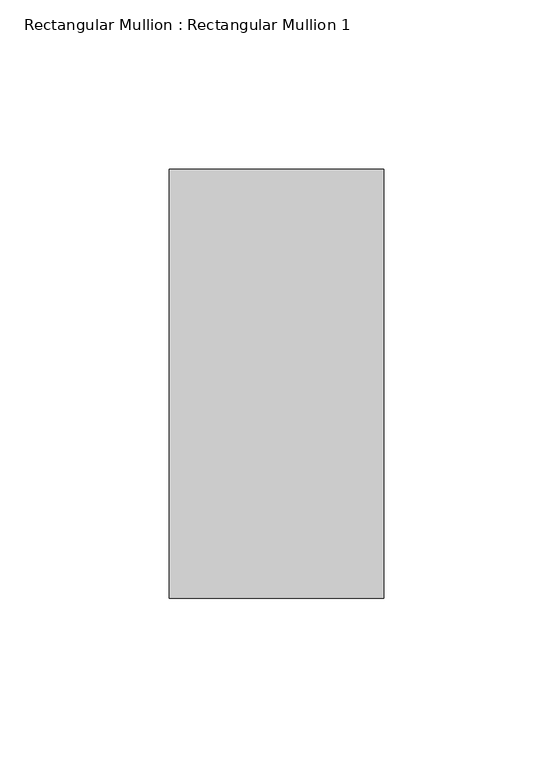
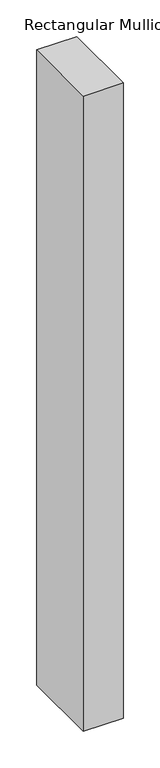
"""IFC4 building model written with IfcOpenShell, lengths in millimetres: member geometry, Rectangular Mullion : Rectangular Mullion 1."""

from ifc_helpers import new_model, si_unit, frame, origin, place, context, project, spatial, polyline, outline, extrude, source, transform, mapped, element, save


def rectangular_mullion_rectangular_mullion_1_f2e3b31c(model_context):
    return source(origin(), model_context, "Body", "SweptSolid", [
        extrude(outline(polyline([(31.75, 63.5), (31.75, -63.5), (-31.75, -63.5), (-31.75, 63.5), (31.75, 63.5)])), frame((0.0, 0.0, -1059.0892857), z_axis=(0.0, 0.0, 1.0), x_axis=(1.0, 0.0, 0.0)), (0.0, 0.0, 1.0), 1059.0892857),
    ])


if __name__ == "__main__":
    model = new_model("IFC4")
    model_context = context("Model", 3, world=origin())
    ifc_project = project(units=[si_unit("LENGTHUNIT", "METRE", prefix="MILLI")], contexts=[model_context])
    site = spatial("IfcSite", under=ifc_project)
    building = spatial("IfcBuilding", under=site)
    placement = place(None, origin())
    rectangular_mullion_rectangular_mullion_1_shape = rectangular_mullion_rectangular_mullion_1_f2e3b31c(model_context)
    element("IfcMember", 1, ObjectType="Rectangular Mullion : Rectangular Mullion 1", at=placement, inside=building, context=model_context, shape_type="MappedRepresentation", body=[
        mapped(rectangular_mullion_rectangular_mullion_1_shape, transform((0.0, 0.0, 0.0), x_axis=(1.0, 0.0, 0.0), y_axis=(0.0, 1.0, 0.0), z_axis=(0.0, 0.0, 1.0))),
    ])
    save(model, "model.ifc")
